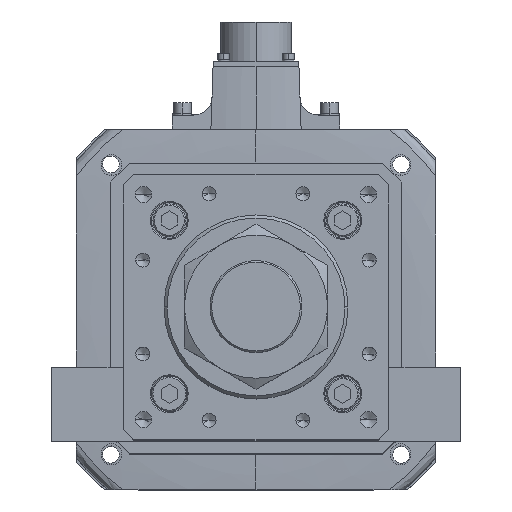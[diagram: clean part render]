
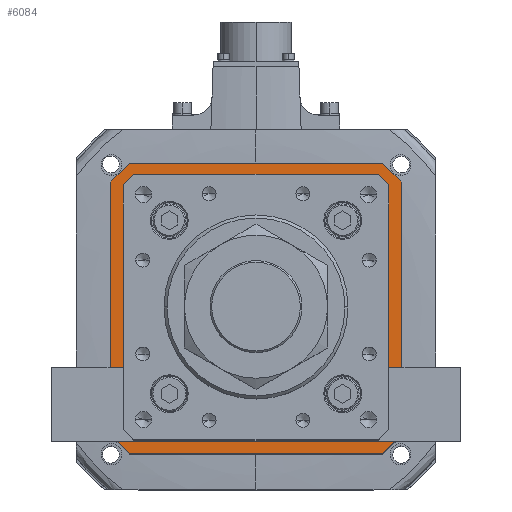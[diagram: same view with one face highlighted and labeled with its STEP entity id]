
A CAD part, top view. The second image highlights one B-rep face of the part: STEP entity #6084.
In plain terms, the highlighted planar face has unit normal (0, 0, 1).
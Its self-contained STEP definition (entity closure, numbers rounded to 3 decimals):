
#161 = VECTOR ( 'NONE', #16355, 1000. ) ;
#197 = AXIS2_PLACEMENT_3D ( 'NONE', #48337, #52696, #31228 ) ;
#271 = LINE ( 'NONE', #47165, #20507 ) ;
#358 = VECTOR ( 'NONE', #47298, 1000. ) ;
#2319 = CARTESIAN_POINT ( 'NONE',  ( 71., 62., -142. ) ) ;
#2477 = DIRECTION ( 'NONE',  ( 0., 1., 0. ) ) ;
#3523 = LINE ( 'NONE', #16640, #42660 ) ;
#4661 = CARTESIAN_POINT ( 'NONE',  ( -62., -71., -142. ) ) ;
#5673 = CARTESIAN_POINT ( 'NONE',  ( 0., -63., -142. ) ) ;
#6084 = ADVANCED_FACE ( 'NONE', ( #34903, #6343 ), #44014, .T. ) ;
#6132 = ORIENTED_EDGE ( 'NONE', *, *, #12314, .F. ) ;
#6343 = FACE_OUTER_BOUND ( 'NONE', #54280, .T. ) ;
#6873 = VERTEX_POINT ( 'NONE', #33757 ) ;
#7560 = EDGE_CURVE ( 'NONE', #43646, #35330, #37645, .T. ) ;
#7807 = CARTESIAN_POINT ( 'NONE',  ( 71., 62., -142. ) ) ;
#8149 = ORIENTED_EDGE ( 'NONE', *, *, #53704, .T. ) ;
#8187 = LINE ( 'NONE', #50734, #161 ) ;
#8519 = DIRECTION ( 'NONE',  ( 0., -1., 0. ) ) ;
#9660 = CARTESIAN_POINT ( 'NONE',  ( -60.896, -60.896, -142. ) ) ;
#9679 = CARTESIAN_POINT ( 'NONE',  ( 63., 58.793, -142. ) ) ;
#10140 = CARTESIAN_POINT ( 'NONE',  ( -63., -58.793, -142. ) ) ;
#10348 = EDGE_CURVE ( 'NONE', #25127, #27479, #23219, .T. ) ;
#11169 = LINE ( 'NONE', #47671, #358 ) ;
#11304 = CARTESIAN_POINT ( 'NONE',  ( -71., 62., -142. ) ) ;
#12314 = EDGE_CURVE ( 'NONE', #35330, #6873, #3523, .T. ) ;
#12356 = CARTESIAN_POINT ( 'NONE',  ( -63., 58.793, -142. ) ) ;
#12452 = CARTESIAN_POINT ( 'NONE',  ( -62., 71., -142. ) ) ;
#13813 = DIRECTION ( 'NONE',  ( -0.707, -0.707, 0. ) ) ;
#15360 = VECTOR ( 'NONE', #39169, 1000. ) ;
#15932 = EDGE_CURVE ( 'NONE', #25582, #34416, #46740, .T. ) ;
#16355 = DIRECTION ( 'NONE',  ( 0., 1., 0. ) ) ;
#16468 = DIRECTION ( 'NONE',  ( 0.707, -0.707, 0. ) ) ;
#16640 = CARTESIAN_POINT ( 'NONE',  ( 71., 62., -142. ) ) ;
#17289 = DIRECTION ( 'NONE',  ( -0.707, 0.707, 0. ) ) ;
#17497 = VECTOR ( 'NONE', #2477, 1000. ) ;
#17849 = CARTESIAN_POINT ( 'NONE',  ( -62., -71., -142. ) ) ;
#18665 = DIRECTION ( 'NONE',  ( -1., 0., 0. ) ) ;
#18800 = ORIENTED_EDGE ( 'NONE', *, *, #45114, .F. ) ;
#18822 = CARTESIAN_POINT ( 'NONE',  ( -58.793, -63., -142. ) ) ;
#19323 = EDGE_CURVE ( 'NONE', #48753, #43646, #25526, .T. ) ;
#19828 = ORIENTED_EDGE ( 'NONE', *, *, #43468, .T. ) ;
#19854 = CARTESIAN_POINT ( 'NONE',  ( -71., -62., -142. ) ) ;
#20225 = CARTESIAN_POINT ( 'NONE',  ( 63., -58.793, -142. ) ) ;
#20507 = VECTOR ( 'NONE', #39279, 1000. ) ;
#20550 = EDGE_CURVE ( 'NONE', #42028, #34120, #53051, .T. ) ;
#20918 = CARTESIAN_POINT ( 'NONE',  ( 62., 71., -142. ) ) ;
#21784 = CARTESIAN_POINT ( 'NONE',  ( 60.896, -60.896, -142. ) ) ;
#21923 = EDGE_CURVE ( 'NONE', #33312, #48753, #27318, .T. ) ;
#22055 = EDGE_CURVE ( 'NONE', #52304, #54273, #271, .T. ) ;
#22170 = ORIENTED_EDGE ( 'NONE', *, *, #55159, .F. ) ;
#22290 = ORIENTED_EDGE ( 'NONE', *, *, #10348, .T. ) ;
#22718 = VERTEX_POINT ( 'NONE', #17849 ) ;
#23219 = LINE ( 'NONE', #21784, #30634 ) ;
#24571 = CARTESIAN_POINT ( 'NONE',  ( -58.793, 63., -142. ) ) ;
#25127 = VERTEX_POINT ( 'NONE', #20225 ) ;
#25526 = LINE ( 'NONE', #43289, #15360 ) ;
#25582 = VERTEX_POINT ( 'NONE', #18822 ) ;
#25589 = LINE ( 'NONE', #38360, #53934 ) ;
#26157 = VECTOR ( 'NONE', #16468, 1000. ) ;
#26943 = ORIENTED_EDGE ( 'NONE', *, *, #40147, .T. ) ;
#27318 = LINE ( 'NONE', #12452, #41554 ) ;
#27479 = VERTEX_POINT ( 'NONE', #46107 ) ;
#27671 = ORIENTED_EDGE ( 'NONE', *, *, #21923, .F. ) ;
#27824 = VECTOR ( 'NONE', #18665, 1000. ) ;
#30286 = EDGE_CURVE ( 'NONE', #22718, #50375, #31841, .T. ) ;
#30332 = ORIENTED_EDGE ( 'NONE', *, *, #19323, .F. ) ;
#30399 = CARTESIAN_POINT ( 'NONE',  ( 58.793, 63., -142. ) ) ;
#30634 = VECTOR ( 'NONE', #13813, 1000. ) ;
#30976 = VECTOR ( 'NONE', #51096, 1000. ) ;
#31228 = DIRECTION ( 'NONE',  ( 1., 0., 0. ) ) ;
#31841 = LINE ( 'NONE', #4661, #50709 ) ;
#33312 = VERTEX_POINT ( 'NONE', #44085 ) ;
#33757 = CARTESIAN_POINT ( 'NONE',  ( 71., -62., -142. ) ) ;
#34120 = VERTEX_POINT ( 'NONE', #24571 ) ;
#34416 = VERTEX_POINT ( 'NONE', #10140 ) ;
#34903 = FACE_BOUND ( 'NONE', #48994, .T. ) ;
#35330 = VERTEX_POINT ( 'NONE', #2319 ) ;
#36309 = DIRECTION ( 'NONE',  ( -0.707, 0.707, 0. ) ) ;
#37109 = ORIENTED_EDGE ( 'NONE', *, *, #7560, .F. ) ;
#37387 = CARTESIAN_POINT ( 'NONE',  ( 0., 63., -142. ) ) ;
#37469 = EDGE_CURVE ( 'NONE', #51177, #22718, #25589, .T. ) ;
#37645 = LINE ( 'NONE', #7807, #26157 ) ;
#37804 = ORIENTED_EDGE ( 'NONE', *, *, #15932, .T. ) ;
#38360 = CARTESIAN_POINT ( 'NONE',  ( 62., -71., -142. ) ) ;
#38691 = ORIENTED_EDGE ( 'NONE', *, *, #22055, .T. ) ;
#39169 = DIRECTION ( 'NONE',  ( 1., 0., 0. ) ) ;
#39279 = DIRECTION ( 'NONE',  ( 0.707, -0.707, 0. ) ) ;
#39327 = DIRECTION ( 'NONE',  ( -0.707, -0.707, 0. ) ) ;
#39788 = ORIENTED_EDGE ( 'NONE', *, *, #43335, .T. ) ;
#40101 = CARTESIAN_POINT ( 'NONE',  ( -62., 71., -142. ) ) ;
#40147 = EDGE_CURVE ( 'NONE', #54273, #25127, #11169, .T. ) ;
#40233 = VECTOR ( 'NONE', #46831, 1000. ) ;
#41554 = VECTOR ( 'NONE', #42125, 1000. ) ;
#42028 = VERTEX_POINT ( 'NONE', #12356 ) ;
#42125 = DIRECTION ( 'NONE',  ( 0.707, 0.707, 0. ) ) ;
#42660 = VECTOR ( 'NONE', #8519, 1000. ) ;
#42668 = DIRECTION ( 'NONE',  ( -1., 0., 0. ) ) ;
#43289 = CARTESIAN_POINT ( 'NONE',  ( 62., 71., -142. ) ) ;
#43335 = EDGE_CURVE ( 'NONE', #27479, #25582, #50768, .T. ) ;
#43468 = EDGE_CURVE ( 'NONE', #34416, #42028, #8187, .T. ) ;
#43646 = VERTEX_POINT ( 'NONE', #20918 ) ;
#44014 = PLANE ( 'NONE',  #197 ) ;
#44085 = CARTESIAN_POINT ( 'NONE',  ( -71., 62., -142. ) ) ;
#45114 = EDGE_CURVE ( 'NONE', #50375, #33312, #49250, .T. ) ;
#45917 = ORIENTED_EDGE ( 'NONE', *, *, #37469, .F. ) ;
#46107 = CARTESIAN_POINT ( 'NONE',  ( 58.793, -63., -142. ) ) ;
#46740 = LINE ( 'NONE', #9660, #54186 ) ;
#46831 = DIRECTION ( 'NONE',  ( 0.707, 0.707, 0. ) ) ;
#47165 = CARTESIAN_POINT ( 'NONE',  ( 60.896, 60.896, -142. ) ) ;
#47298 = DIRECTION ( 'NONE',  ( 0., -1., 0. ) ) ;
#47671 = CARTESIAN_POINT ( 'NONE',  ( 63., 0., -142. ) ) ;
#48337 = CARTESIAN_POINT ( 'NONE',  ( 0., 0., -142. ) ) ;
#48753 = VERTEX_POINT ( 'NONE', #40101 ) ;
#48994 = EDGE_LOOP ( 'NONE', ( #26943, #22290, #39788, #37804, #19828, #54524, #8149, #38691 ) ) ;
#49250 = LINE ( 'NONE', #11304, #17497 ) ;
#50375 = VERTEX_POINT ( 'NONE', #19854 ) ;
#50709 = VECTOR ( 'NONE', #17289, 1000. ) ;
#50734 = CARTESIAN_POINT ( 'NONE',  ( -63., 0., -142. ) ) ;
#50768 = LINE ( 'NONE', #5673, #27824 ) ;
#51096 = DIRECTION ( 'NONE',  ( 1., 0., 0. ) ) ;
#51177 = VERTEX_POINT ( 'NONE', #55780 ) ;
#52304 = VERTEX_POINT ( 'NONE', #30399 ) ;
#52497 = LINE ( 'NONE', #53065, #53210 ) ;
#52696 = DIRECTION ( 'NONE',  ( 0., 0., 1. ) ) ;
#53051 = LINE ( 'NONE', #55329, #40233 ) ;
#53065 = CARTESIAN_POINT ( 'NONE',  ( 71., -62., -142. ) ) ;
#53210 = VECTOR ( 'NONE', #39327, 1000. ) ;
#53704 = EDGE_CURVE ( 'NONE', #34120, #52304, #53968, .T. ) ;
#53934 = VECTOR ( 'NONE', #42668, 1000. ) ;
#53947 = ORIENTED_EDGE ( 'NONE', *, *, #30286, .F. ) ;
#53968 = LINE ( 'NONE', #37387, #30976 ) ;
#54186 = VECTOR ( 'NONE', #36309, 1000. ) ;
#54273 = VERTEX_POINT ( 'NONE', #9679 ) ;
#54280 = EDGE_LOOP ( 'NONE', ( #30332, #27671, #18800, #53947, #45917, #22170, #6132, #37109 ) ) ;
#54524 = ORIENTED_EDGE ( 'NONE', *, *, #20550, .T. ) ;
#55159 = EDGE_CURVE ( 'NONE', #6873, #51177, #52497, .T. ) ;
#55329 = CARTESIAN_POINT ( 'NONE',  ( -60.896, 60.896, -142. ) ) ;
#55780 = CARTESIAN_POINT ( 'NONE',  ( 62., -71., -142. ) ) ;
